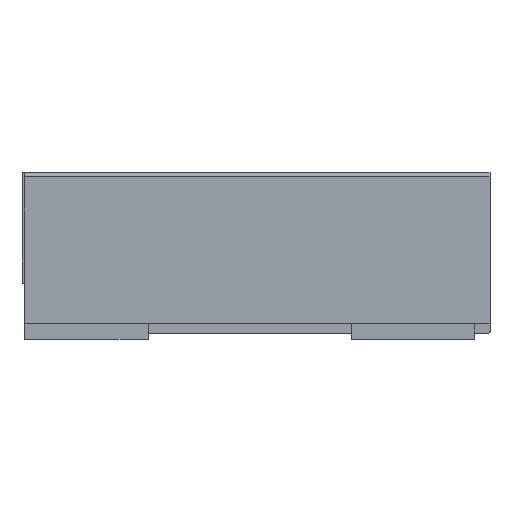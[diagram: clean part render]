
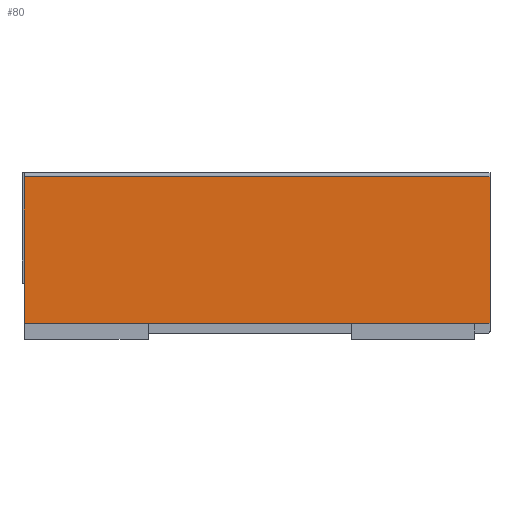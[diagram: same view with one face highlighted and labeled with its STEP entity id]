
A CAD part, left-side view. The second image highlights one B-rep face of the part: STEP entity #80.
In plain terms, the highlighted planar face has unit normal (-1, 0, 0).
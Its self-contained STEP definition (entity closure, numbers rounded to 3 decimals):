
#80 = ADVANCED_FACE ( 'NONE', ( #376 ), #3874, .F. ) ;
#273 = VECTOR ( 'NONE', #3389, 1000. ) ;
#278 = LINE ( 'NONE', #3393, #273 ) ;
#376 = FACE_OUTER_BOUND ( 'NONE', #948, .T. ) ;
#724 = ORIENTED_EDGE ( 'NONE', *, *, #2689, .F. ) ;
#725 = ORIENTED_EDGE ( 'NONE', *, *, #2446, .F. ) ;
#726 = ORIENTED_EDGE ( 'NONE', *, *, #2536, .T. ) ;
#727 = ORIENTED_EDGE ( 'NONE', *, *, #2224, .T. ) ;
#948 = EDGE_LOOP ( 'NONE', ( #724, #725, #726, #727 ) ) ;
#1493 = VECTOR ( 'NONE', #1942, 1000. ) ;
#1494 = LINE ( 'NONE', #1941, #1493 ) ;
#1615 = VECTOR ( 'NONE', #2939, 1000. ) ;
#1625 = LINE ( 'NONE', #2941, #1615 ) ;
#1692 = VERTEX_POINT ( 'NONE', #3651 ) ;
#1804 = VERTEX_POINT ( 'NONE', #3537 ) ;
#1806 = VERTEX_POINT ( 'NONE', #3535 ) ;
#1827 = VERTEX_POINT ( 'NONE', #3513 ) ;
#1941 = CARTESIAN_POINT ( 'NONE',  ( -4.1, 340., 64.411 ) ) ;
#1942 = DIRECTION ( 'NONE',  ( 0., 0., -1. ) ) ;
#2143 = CARTESIAN_POINT ( 'NONE',  ( -4.1, 0., -28.503 ) ) ;
#2144 = DIRECTION ( 'NONE',  ( 0., 0., -1. ) ) ;
#2224 = EDGE_CURVE ( 'NONE', #1804, #1827, #278, .T. ) ;
#2446 = EDGE_CURVE ( 'NONE', #1806, #1692, #1625, .T. ) ;
#2526 = AXIS2_PLACEMENT_3D ( 'NONE', #3875, #3872, #3870 ) ;
#2536 = EDGE_CURVE ( 'NONE', #1806, #1804, #1494, .T. ) ;
#2689 = EDGE_CURVE ( 'NONE', #1692, #1827, #3892, .T. ) ;
#2939 = DIRECTION ( 'NONE',  ( 0., -1., 0. ) ) ;
#2941 = CARTESIAN_POINT ( 'NONE',  ( -4.1, 340., 78.498 ) ) ;
#3389 = DIRECTION ( 'NONE',  ( 0., -1., 0. ) ) ;
#3393 = CARTESIAN_POINT ( 'NONE',  ( -4.1, 340., -28.503 ) ) ;
#3513 = CARTESIAN_POINT ( 'NONE',  ( -4.1, 0., -28.503 ) ) ;
#3535 = CARTESIAN_POINT ( 'NONE',  ( -4.1, 340., 78.498 ) ) ;
#3537 = CARTESIAN_POINT ( 'NONE',  ( -4.1, 340., -28.503 ) ) ;
#3651 = CARTESIAN_POINT ( 'NONE',  ( -4.1, 0., 78.498 ) ) ;
#3870 = DIRECTION ( 'NONE',  ( 0., 0., -1. ) ) ;
#3872 = DIRECTION ( 'NONE',  ( 1., 0., 0. ) ) ;
#3874 = PLANE ( 'NONE',  #2526 ) ;
#3875 = CARTESIAN_POINT ( 'NONE',  ( -4.1, 340., -28.503 ) ) ;
#3891 = VECTOR ( 'NONE', #2144, 1000. ) ;
#3892 = LINE ( 'NONE', #2143, #3891 ) ;
